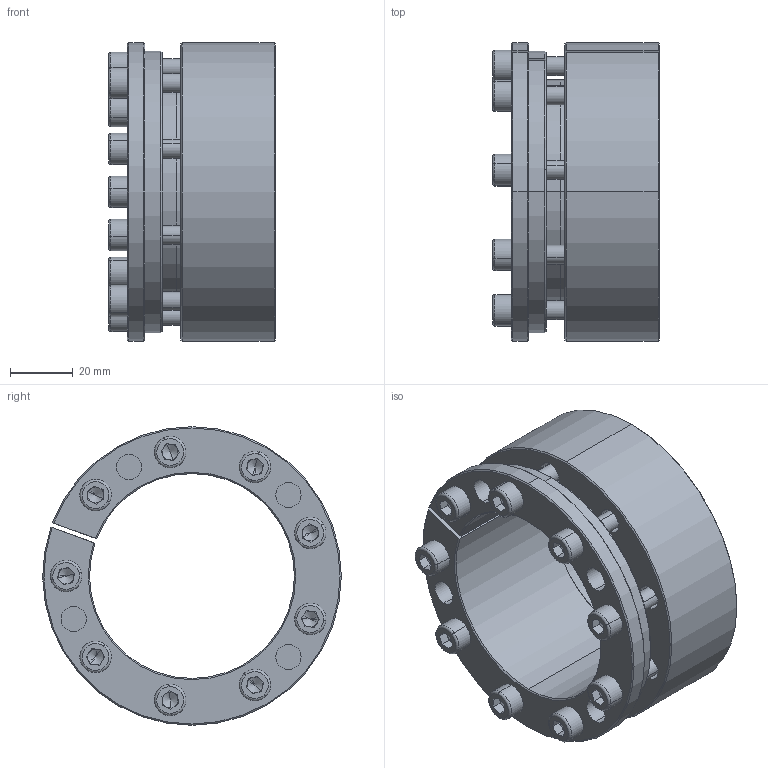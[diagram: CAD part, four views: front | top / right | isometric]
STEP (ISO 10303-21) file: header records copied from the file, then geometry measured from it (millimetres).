
FILE_DESCRIPTION (( 'STEP AP214' ), '1' );
FILE_NAME ('PL-H2 65-95.STEP', '2022-07-25T02:12:24', ( '' ), ( '' ), 'SwSTEP 2.0', 'SolidWorks 2022', '' );
FILE_SCHEMA (( 'AUTOMOTIVE_DESIGN' ));
Length unit declared in the file: millimetre
Products named in the file (1): PL-H2 65-95
Bounding box: 53 x 94.9 x 94.9 mm (x, y, z)
Volume: 139674.4 mm3; surface area: 53188 mm2
Topology: 1 solids, 1 shells, 328 faces, 803 edges, 486 vertices
Faces by surface type: plane 143, cylinder 95, cone 72, torus 18
Entity records: 9636 total; most frequent: DIRECTION 1792, CARTESIAN_POINT 1672, ORIENTED_EDGE 1570, EDGE_CURVE 785, AXIS2_PLACEMENT_3D 702, VERTEX_POINT 486, LINE 388, VECTOR 388
